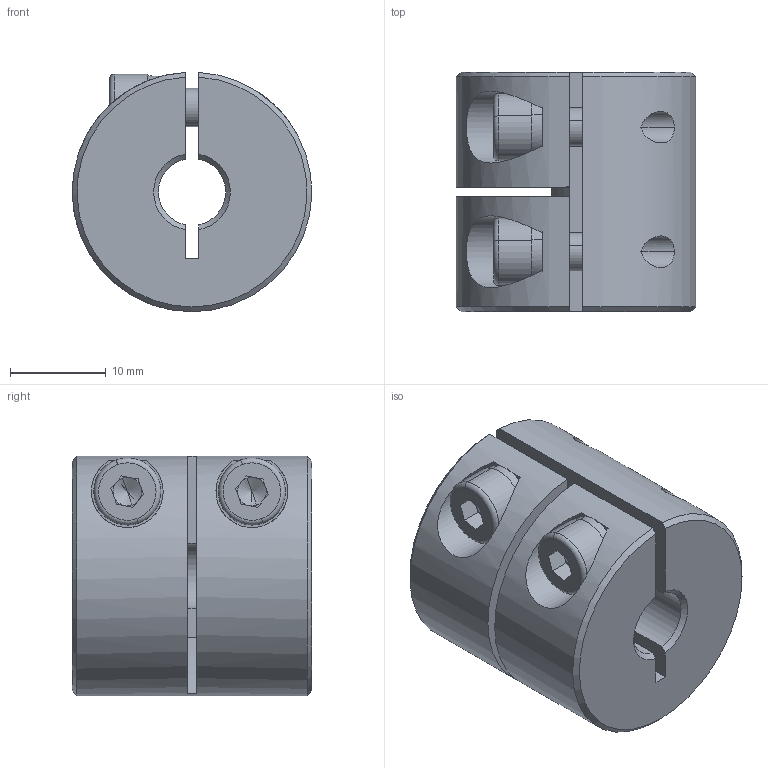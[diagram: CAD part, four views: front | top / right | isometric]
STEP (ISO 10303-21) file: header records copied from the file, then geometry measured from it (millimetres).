
FILE_DESCRIPTION (( 'STEP AP203' ), '1' );
FILE_NAME ('LL-B-D25L25-7-7.STEP', '2021-11-05T06:35:20', ( '' ), ( '' ), 'SwSTEP 2.0', 'SolidWorks 2018', '' );
FILE_SCHEMA (( 'CONFIG_CONTROL_DESIGN' ));
Length unit declared in the file: millimetre
Products named in the file (1): LL-B-D25L25-7-7
Bounding box: 24.99 x 25 x 24.98 mm (x, y, z)
Volume: 10496.9 mm3; surface area: 4948.8 mm2
Topology: 1 solids, 1 shells, 100 faces, 258 edges, 162 vertices
Faces by surface type: plane 50, cylinder 35, cone 11, torus 4
Entity records: 3335 total; most frequent: CARTESIAN_POINT 791, DIRECTION 536, ORIENTED_EDGE 508, EDGE_CURVE 254, AXIS2_PLACEMENT_3D 207, VERTEX_POINT 162, VECTOR 122, LINE 122
